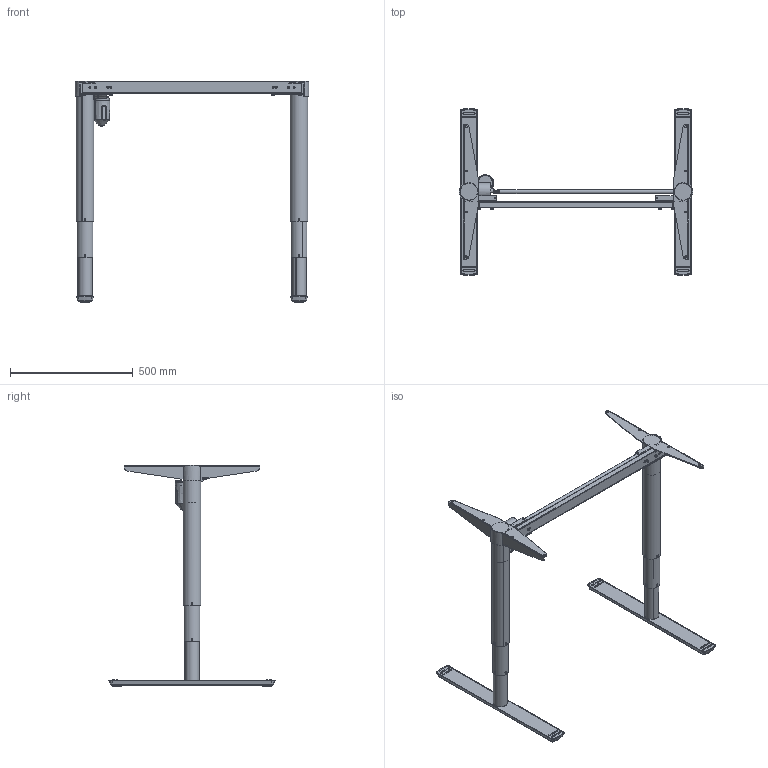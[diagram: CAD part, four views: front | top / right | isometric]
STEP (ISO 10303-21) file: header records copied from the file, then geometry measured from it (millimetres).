
FILE_DESCRIPTION (( 'STEP AP203' ), '1' );
FILE_NAME ('Tech-draw_501-49_XX092.STEP', '2019-09-25T06:53:12', ( '' ), ( '' ), 'SwSTEP 2.0', 'SolidWorks 2018', '' );
FILE_SCHEMA (( 'CONFIG_CONTROL_DESIGN' ));
Length unit declared in the file: millimetre
Products named in the file (35): 347920_92; 344170; 138160_silver1; 144260_92; 138100_silver1; 324520_silver; 138150_silver; Tech-draw_501-49_XX092; 138860_shell view; 352590; 344210; 332560; 344430_silver; 344150_shell view; 332570; 340760; 343600; 344290_shell view; 344220_shell view; 341220; 148950_501-49 XS092; 340560; 344630._›72silver; 138120_silver1; 344630._›65silver; 344180; 139080_silver1; 138140_silver1; 138130_silver; 138110_silver; 138090_silver; 343610_shell view; 344300; 346600; 347910_92
Assembly tree (62 placements, depth 6):
  Tech-draw_501-49_XX092
    148950_501-49 XS092
      347910_92
      144260_92
        347920_92
        340560
        341220
      138090_silver
        138100_silver1
          343600
          344170
          138860_shell view
            344150_shell view
            332560
          346600
        138110_silver
          138120_silver1
            343610_shell view
            344210
            344220_shell view
          139080_silver1
            344290_shell view
          344630._›65silver  x4
        324520_silver  x2
        344430_silver
        344630._›72silver  x4
        352590
      138130_silver
        138140_silver1
          344300
          138860_shell view
            344150_shell view
            332560
          344180
        138150_silver
          138160_silver1
            343610_shell view
            344210
            344220_shell view
          139080_silver1
            344290_shell view
          344630._›65silver  x4
        324520_silver  x2
        344630._›72silver  x4
      340760  x4
      332570  x4
Bounding box: 951.5 x 679.46 x 902.5 mm (x, y, z)
Volume: 2386950.2 mm3; surface area: 2495954 mm2
Topology: 51 solids, 51 shells, 4836 faces, 12022 edges, 7257 vertices
Faces by surface type: plane 1686, cylinder 1650, bspline 648, torus 439, sphere 256, cone 157
Full cylindrical faces by diameter (mm): 2.8 x4, 3 x2, 4.6 x4, 5 x4, 6 x10, 7 x8, 7.6 x4, 8 x12, 9 x4, 10 x8, 11.9 x2, 12 x1, 13 x2, 15 x4, 16 x2, 18 x1, 20 x1, 37.6 x8, 58 x2, 58.35 x2, 60 x1, 65 x2, 66.6 x1, 72 x2
Entity records: 81129 total; most frequent: CARTESIAN_POINT 34428, ORIENTED_EDGE 9022, DIRECTION 8574, EDGE_CURVE 4511, AXIS2_PLACEMENT_3D 3316, VERTEX_POINT 2878, EDGE_LOOP 2073, VECTOR 1942
